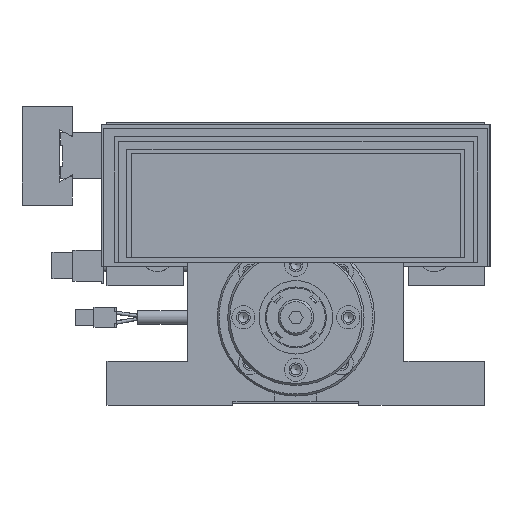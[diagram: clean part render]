
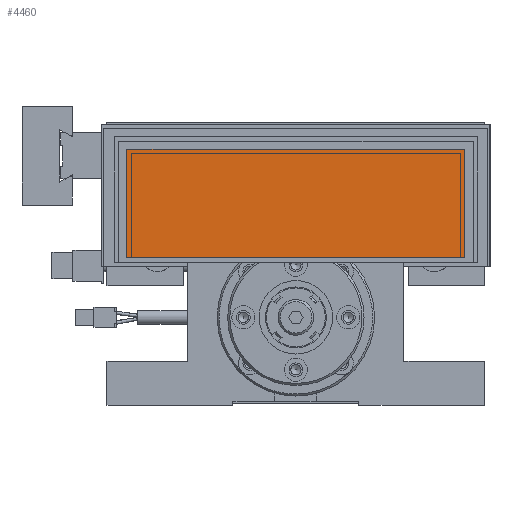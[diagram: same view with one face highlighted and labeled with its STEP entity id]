
A CAD part, front view. The second image highlights one B-rep face of the part: STEP entity #4460.
In plain terms, the highlighted planar face has unit normal (0, -1, 0) as drawn and (-1, 0, 0) by its records, which use the part's own axes.
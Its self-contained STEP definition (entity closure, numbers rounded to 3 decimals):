
#4460 = ADVANCED_FACE( '', ( #10848 ), #10849, .T. );
#10848 = FACE_OUTER_BOUND( '', #19908, .T. );
#10849 = PLANE( '', #19909 );
#19908 = EDGE_LOOP( '', ( #32402, #32403, #32404, #32405 ) );
#19909 = AXIS2_PLACEMENT_3D( '', #32406, #32407, #32408 );
#32402 = ORIENTED_EDGE( '', *, *, #41837, .T. );
#32403 = ORIENTED_EDGE( '', *, *, #41354, .T. );
#32404 = ORIENTED_EDGE( '', *, *, #41838, .T. );
#32405 = ORIENTED_EDGE( '', *, *, #41839, .T. );
#32406 = CARTESIAN_POINT( '', ( 60.7, 0., 0. ) );
#32407 = DIRECTION( '', ( -1., 0., 0. ) );
#32408 = DIRECTION( '', ( 0., 0., 1. ) );
#41354 = EDGE_CURVE( '', #44713, #44711, #44714, .T. );
#41837 = EDGE_CURVE( '', #45468, #44713, #45469, .T. );
#41838 = EDGE_CURVE( '', #44711, #45470, #45471, .T. );
#41839 = EDGE_CURVE( '', #45470, #45468, #45472, .T. );
#44711 = VERTEX_POINT( '', #49102 );
#44713 = VERTEX_POINT( '', #49105 );
#44714 = LINE( '', #49106, #49107 );
#45468 = VERTEX_POINT( '', #50112 );
#45469 = LINE( '', #50113, #50114 );
#45470 = VERTEX_POINT( '', #50115 );
#45471 = LINE( '', #50116, #50117 );
#45472 = LINE( '', #50118, #50119 );
#49102 = CARTESIAN_POINT( '', ( 60.7, 80.5, 62.231 ) );
#49105 = CARTESIAN_POINT( '', ( 60.7, -80.5, 62.231 ) );
#49106 = CARTESIAN_POINT( '', ( 60.7, -80.5, 62.231 ) );
#49107 = VECTOR( '', #53492, 1000. );
#50112 = CARTESIAN_POINT( '', ( 60.7, -80.5, 10.631 ) );
#50113 = CARTESIAN_POINT( '', ( 60.7, -80.5, 10.631 ) );
#50114 = VECTOR( '', #54033, 1000. );
#50115 = CARTESIAN_POINT( '', ( 60.7, 80.5, 10.631 ) );
#50116 = CARTESIAN_POINT( '', ( 60.7, 80.5, 62.231 ) );
#50117 = VECTOR( '', #54034, 1000. );
#50118 = CARTESIAN_POINT( '', ( 60.7, 80.5, 10.631 ) );
#50119 = VECTOR( '', #54035, 1000. );
#53492 = DIRECTION( '', ( 0., 1., 0. ) );
#54033 = DIRECTION( '', ( 0., 0., 1. ) );
#54034 = DIRECTION( '', ( 0., 0., -1. ) );
#54035 = DIRECTION( '', ( 0., -1., 0. ) );
